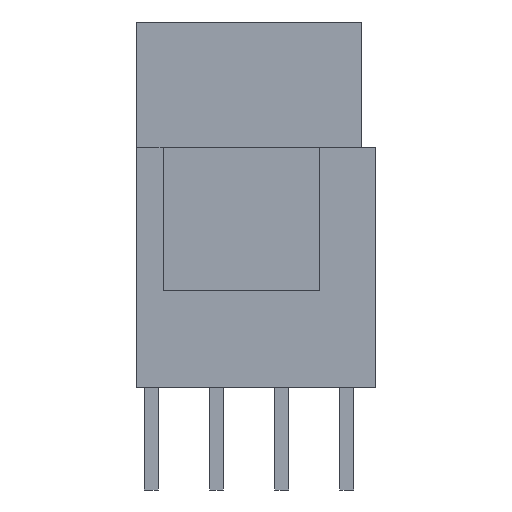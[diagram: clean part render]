
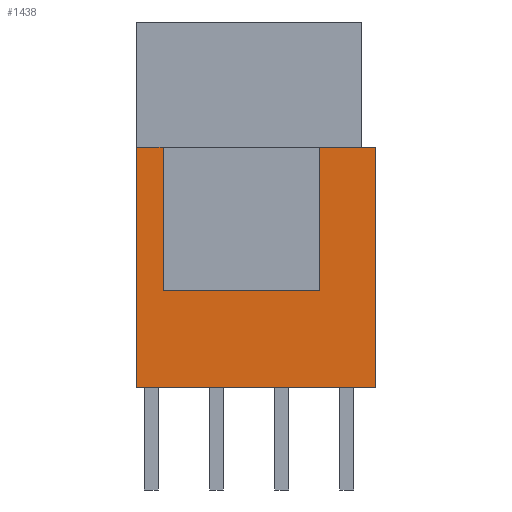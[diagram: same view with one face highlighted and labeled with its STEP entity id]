
A CAD part, left-side view. The second image highlights one B-rep face of the part: STEP entity #1438.
In plain terms, the highlighted planar face has unit normal (-1, 0, 0).
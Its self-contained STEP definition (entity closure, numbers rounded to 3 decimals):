
#474=FACE_OUTER_BOUND('',#2416,.T.);
#1438=ADVANCED_FACE('',(#474),#1870,.T.);
#1870=PLANE('',#9523);
#2416=EDGE_LOOP('',(#3075,#3076,#3077,#3078,#3079,#3080,#3081,#3082));
#3075=ORIENTED_EDGE('',*,*,#6759,.F.);
#3076=ORIENTED_EDGE('',*,*,#6760,.T.);
#3077=ORIENTED_EDGE('',*,*,#6753,.T.);
#3078=ORIENTED_EDGE('',*,*,#6761,.F.);
#3079=ORIENTED_EDGE('',*,*,#6762,.T.);
#3080=ORIENTED_EDGE('',*,*,#6763,.T.);
#3081=ORIENTED_EDGE('',*,*,#6764,.T.);
#3082=ORIENTED_EDGE('',*,*,#6765,.F.);
#5775=VERTEX_POINT('',#12069);
#5776=VERTEX_POINT('',#12070);
#5781=VERTEX_POINT('',#12094);
#5782=VERTEX_POINT('',#12095);
#5783=VERTEX_POINT('',#12098);
#5784=VERTEX_POINT('',#12100);
#5785=VERTEX_POINT('',#12102);
#5786=VERTEX_POINT('',#12104);
#6753=EDGE_CURVE('',#5775,#5776,#8106,.T.);
#6759=EDGE_CURVE('',#5781,#5782,#8108,.T.);
#6760=EDGE_CURVE('',#5781,#5775,#8109,.T.);
#6761=EDGE_CURVE('',#5783,#5776,#8110,.T.);
#6762=EDGE_CURVE('',#5783,#5784,#8111,.T.);
#6763=EDGE_CURVE('',#5784,#5785,#8112,.T.);
#6764=EDGE_CURVE('',#5785,#5786,#8113,.T.);
#6765=EDGE_CURVE('',#5782,#5786,#8114,.T.);
#8106=LINE('',#12068,#8921);
#8108=LINE('',#12093,#8923);
#8109=LINE('',#12096,#8924);
#8110=LINE('',#12097,#8925);
#8111=LINE('',#12099,#8926);
#8112=LINE('',#12101,#8927);
#8113=LINE('',#12103,#8928);
#8114=LINE('',#12105,#8929);
#8921=VECTOR('',#10173,1.);
#8923=VECTOR('',#10177,1.);
#8924=VECTOR('',#10178,1.);
#8925=VECTOR('',#10179,1.);
#8926=VECTOR('',#10180,1.);
#8927=VECTOR('',#10181,1.);
#8928=VECTOR('',#10182,1.);
#8929=VECTOR('',#10183,1.);
#9523=AXIS2_PLACEMENT_3D('',#12106,#10184,#10185);
#10173=DIRECTION('',(0.,0.,1.));
#10177=DIRECTION('',(0.,0.,1.));
#10178=DIRECTION('',(0.,-1.,0.));
#10179=DIRECTION('',(0.,-1.,0.));
#10180=DIRECTION('',(0.,0.,-1.));
#10181=DIRECTION('',(0.,1.,0.));
#10182=DIRECTION('',(0.,0.,1.));
#10183=DIRECTION('',(0.,-1.,0.));
#10184=DIRECTION('',(-1.,0.,0.));
#10185=DIRECTION('',(0.,0.,1.));
#12068=CARTESIAN_POINT('',(-2.489,-3.708,-11.024));
#12069=CARTESIAN_POINT('',(-2.489,-3.708,0.));
#12070=CARTESIAN_POINT('',(-2.491,-3.708,7.036));
#12093=CARTESIAN_POINT('',(-2.489,3.302,-5.347));
#12094=CARTESIAN_POINT('',(-2.489,3.302,0.));
#12095=CARTESIAN_POINT('',(-2.489,3.302,7.036));
#12096=CARTESIAN_POINT('',(-2.489,-7.214,0.));
#12097=CARTESIAN_POINT('',(-2.489,6.807,7.036));
#12098=CARTESIAN_POINT('',(-2.491,-2.057,7.036));
#12099=CARTESIAN_POINT('',(-2.489,-2.057,-11.024));
#12100=CARTESIAN_POINT('',(-2.491,-2.057,2.845));
#12101=CARTESIAN_POINT('',(-2.489,-7.214,2.845));
#12102=CARTESIAN_POINT('',(-2.491,2.515,2.845));
#12103=CARTESIAN_POINT('',(-2.489,2.515,-11.024));
#12104=CARTESIAN_POINT('',(-2.489,2.515,7.036));
#12105=CARTESIAN_POINT('',(-2.489,6.807,7.036));
#12106=CARTESIAN_POINT('',(-2.489,-7.214,-11.024));
